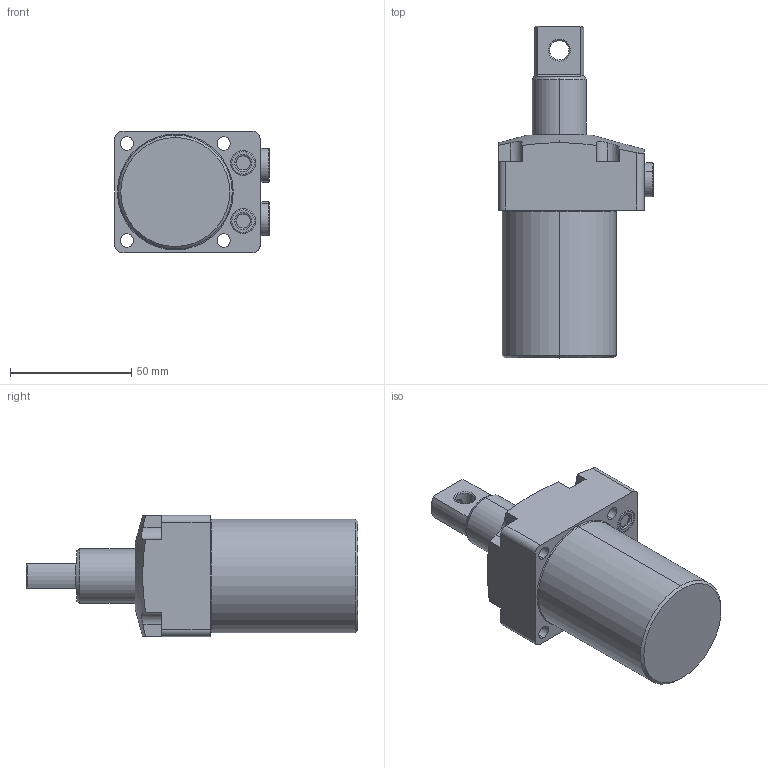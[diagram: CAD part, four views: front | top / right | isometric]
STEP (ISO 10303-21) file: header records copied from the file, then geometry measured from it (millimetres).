
FILE_DESCRIPTION(/* description */ (''),/* implementation_level */ '2;1');
FILE_NAME(/* name */ 'TRC04-P.stp',/* time_stamp */ '2025-01-04T09:16:45+08:00',/* author */ (''),/* organization */ (''),/* preprocessor_version */ 'ST-DEVELOPER v16.7',/* originating_system */ 'SIEMENS PLM Software NX 12.0',/* authorisation */ '');
FILE_SCHEMA (('AUTOMOTIVE_DESIGN { 1 0 10303 214 3 1 1 1 }'));
Length unit declared in the file: millimetre
Products named in the file (4): TRC04-P-03; TRC04-P-02; TRC04-P-01; TRC04-P_stp
Assembly tree (4 placements, depth 2):
  TRC04-P_stp
    TRC04-P-01
    TRC04-P-02
    TRC04-P-03  x2
Bounding box: 63.8 x 137 x 50 mm (x, y, z)
Volume: 192089 mm3; surface area: 29997.6 mm2
Topology: 4 solids, 6 shells, 171 faces, 397 edges, 250 vertices
Faces by surface type: cylinder 67, plane 56, cone 26, torus 22
Entity records: 4633 total; most frequent: CARTESIAN_POINT 992, DIRECTION 797, ORIENTED_EDGE 702, EDGE_CURVE 351, AXIS2_PLACEMENT_3D 329, VERTEX_POINT 222, EDGE_LOOP 175, CIRCLE 175
